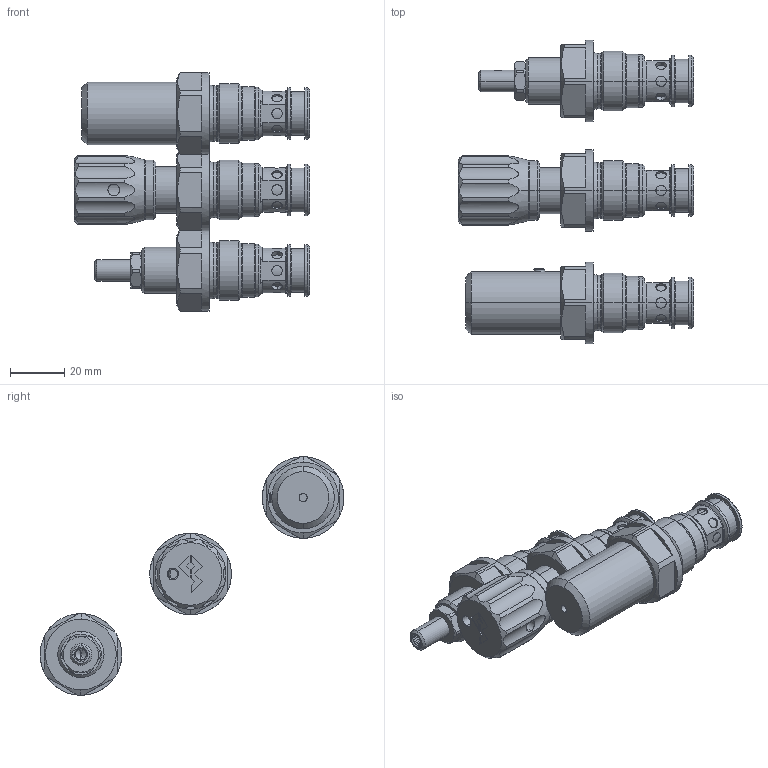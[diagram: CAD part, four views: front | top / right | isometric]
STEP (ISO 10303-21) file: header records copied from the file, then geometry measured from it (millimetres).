
FILE_DESCRIPTION (( 'STEP AP214' ), '1' );
FILE_NAME ('2_4_560_DN_PM22.STEP', '2026-07-20T13:18:51', ( '' ), ( '' ), 'SwSTEP 2.0', 'SolidWorks 2024', '' );
FILE_SCHEMA (( 'AUTOMOTIVE_DESIGN' ));
Length unit declared in the file: millimetre
Products named in the file (1): 2_4_560_DN_PM22
Bounding box: 86.52 x 111.67 x 87.68 mm (x, y, z)
Volume: 80271.7 mm3; surface area: 27145.7 mm2
Topology: 6 solids, 6 shells, 538 faces, 1260 edges, 774 vertices
Faces by surface type: cylinder 218, plane 157, cone 106, torus 57
Entity records: 18499 total; most frequent: CARTESIAN_POINT 6203, DIRECTION 2605, ORIENTED_EDGE 2504, EDGE_CURVE 1252, AXIS2_PLACEMENT_3D 1056, VERTEX_POINT 774, EDGE_LOOP 596, ADVANCED_FACE 538
